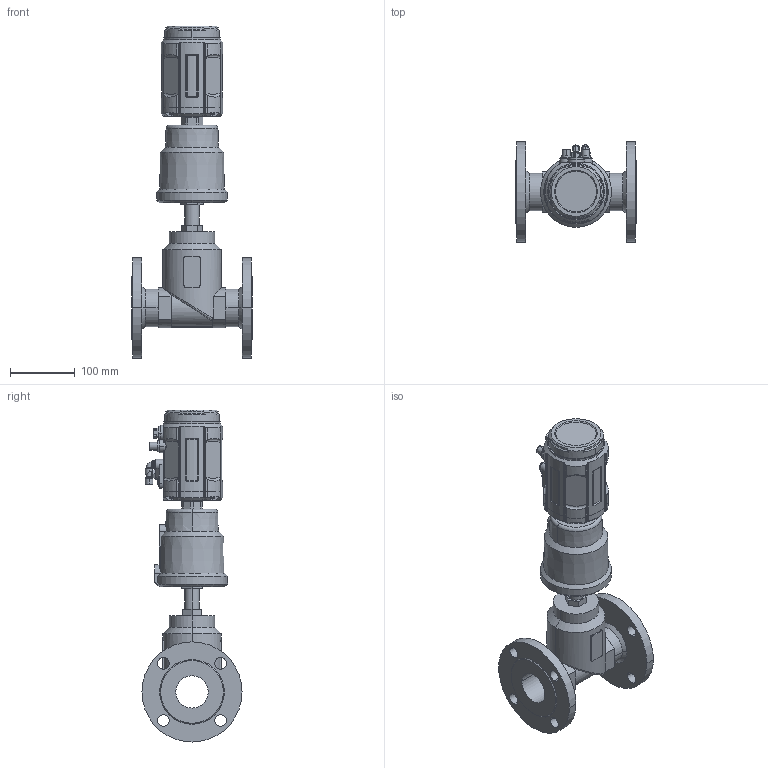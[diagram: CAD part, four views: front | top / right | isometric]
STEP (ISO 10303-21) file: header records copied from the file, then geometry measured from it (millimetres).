
FILE_DESCRIPTION((''),'2;1');
FILE_NAME('PV_F_EPP_P_2_ASM','2025-03-06T',('USER'),(''),'PRO/ENGINEER BY PARAMETRIC TECHNOLOGY CORPORATION, 2011220','PRO/ENGINEER BY PARAMETRIC TECHNOLOGY CORPORATION, 2011220','');
FILE_SCHEMA(('CONFIG_CONTROL_DESIGN'));
Length unit declared in the file: millimetre
Products named in the file (12): KLAPAN; PNEVMOPRIVOD; KOLCO_52_GOST13943; POZICIONER_VERX; POZICIONER_NIZ; SHLYAPKA_VINT; DET; DET_2; SHLYAPKA_VINT_2; DET_3; SB_POZICIONER_ASM; PV_F_EPP_P_2_ASM
Assembly tree (18 placements, depth 3):
  PV_F_EPP_P_2_ASM
    KLAPAN
    PNEVMOPRIVOD
    KOLCO_52_GOST13943
    SB_POZICIONER_ASM
      POZICIONER_VERX
      POZICIONER_NIZ
      SHLYAPKA_VINT  x4
      DET
      DET_2
      SHLYAPKA_VINT_2  x4
      DET_3  x2
Bounding box: 187 x 155 x 514 mm (x, y, z)
Volume: 3043870.4 mm3; surface area: 322498.7 mm2
Topology: 17 solids, 22 shells, 820 faces, 2066 edges, 1350 vertices
Faces by surface type: plane 395, cylinder 327, cone 50, torus 24, bspline 12, sphere 12
Entity records: 22105 total; most frequent: CARTESIAN_POINT 5361, DIRECTION 3507, ORIENTED_EDGE 3386, EDGE_CURVE 1703, AXIS2_PLACEMENT_3D 1324, VERTEX_POINT 1115, VECTOR 859, LINE 859
